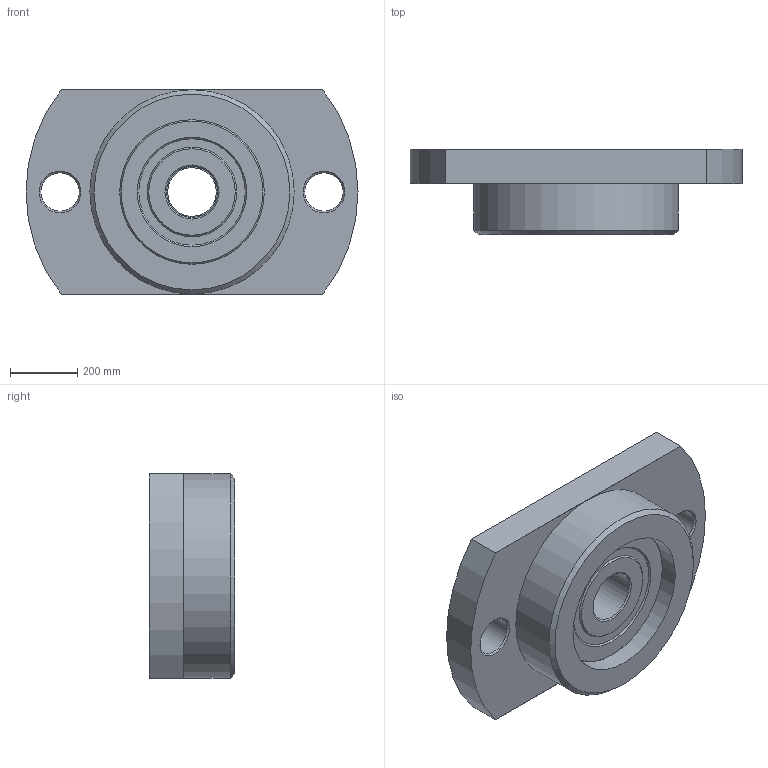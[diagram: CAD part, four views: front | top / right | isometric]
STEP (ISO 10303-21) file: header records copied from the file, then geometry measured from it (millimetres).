
FILE_DESCRIPTION((''),'1');
FILE_NAME('H:/図庫/国内ﾕﾆｯﾄ/ｻﾎﾟｰﾄﾕﾆｯﾄ/ホームページ用ＣＡＤ図面/3D/MSU-8GS_HP.stp','2016-11-24T02:26:00',(''),(''),'Spatial Interop R21 SP3','Kubotek KeyCreator 2011 V10.0.2 (22737)',' ');
FILE_SCHEMA(('automotive_design'));
Length unit declared in the file: inch
Products named in the file (58): Unnamed[1]
Bounding box: 990.6 x 254 x 609.6 mm (x, y, z)
Surface area: 1954538.3 mm2 (no closed solid volume)
Topology: 0 solids, 58 shells, 58 faces, 237 edges, 218 vertices
Faces by surface type: plane 29, cylinder 16, cone 13
Full cylindrical faces by diameter (mm): 114.3 x2, 152.4 x1, 431.8 x2, 609.6 x1
Entity records: 4848 total; most frequent: DIRECTION 552, CARTESIAN_POINT 546, PRESENTATION_STYLE_ASSIGNMENT 232, COLOUR_RGB 232, AXIS2_PLACEMENT_3D 221, ORIENTED_EDGE 215, EDGE_CURVE 215, VERTEX_POINT 215
